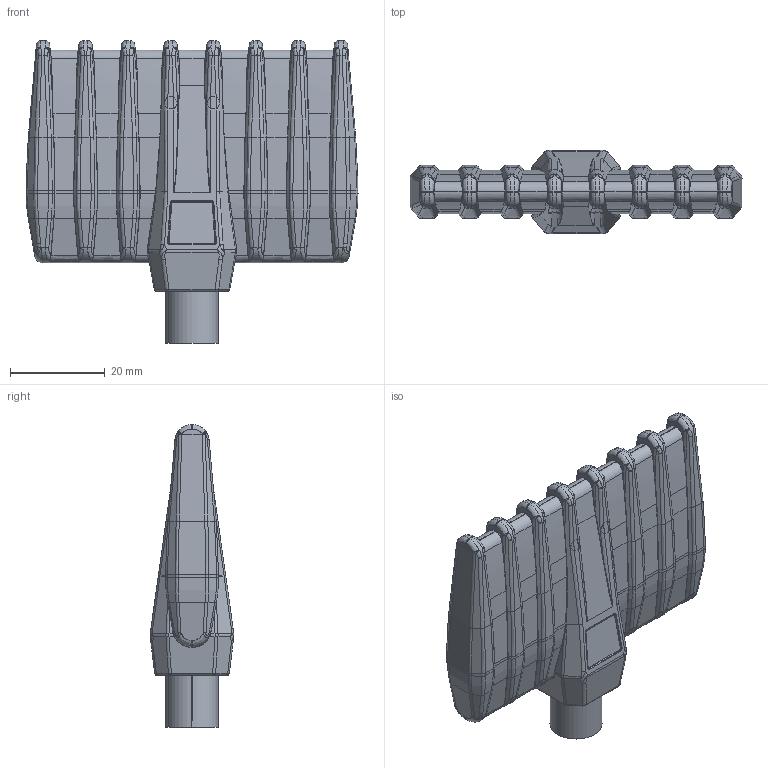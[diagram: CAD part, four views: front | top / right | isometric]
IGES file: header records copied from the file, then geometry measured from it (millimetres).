
Start section: SolidWorks IGES file using analytic representation for surfaces
Global section: file name: G:\SILVENT AB\ENGINEERING\Drawings\WEB CAD\CAD\SILVENT_9005W-S.IGS; native system: SolidWorks 2021; preprocessor: SolidWorks 2021; author: p.jaasko; date: 241017.101441; units: millimetre
Bounding box: 70.21 x 17.73 x 64 mm (x, y, z)
Surface area: 9086.1 mm2 (no closed solid volume)
Topology: 0 solids, 0 shells, 1252 faces, 7553 edges, 7513 vertices
Faces by surface type: bspline 737, revolution 515
